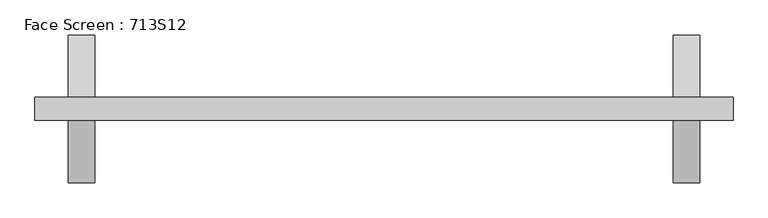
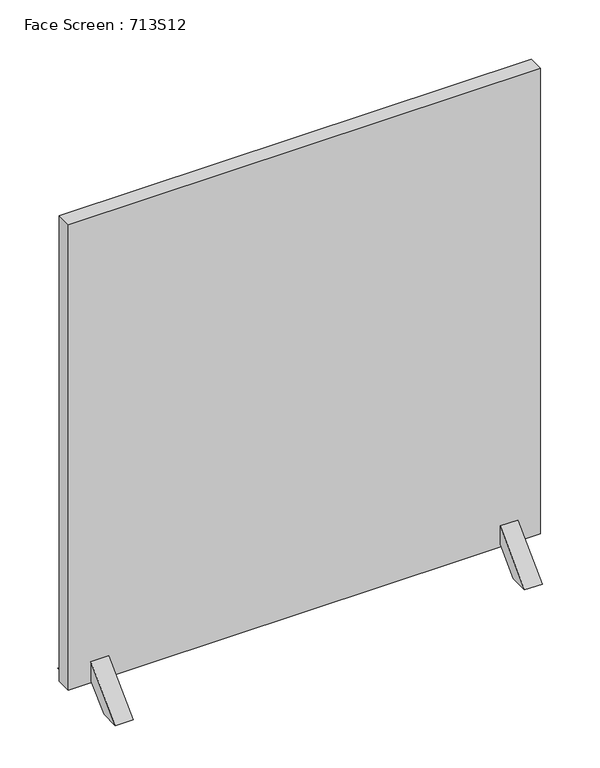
"""IFC4 building model written with IfcOpenShell, lengths in millimetres: furniture geometry, Face Screen : 713S12."""

from ifc_helpers import new_model, si_unit, frame, origin, place, context, project, spatial, polyline, outline, extrude, faceted_brep, source, transform, mapped, element, save


def face_screen_713s12_c93f8a8a(model_context):
    return source(origin(), model_context, "Body", "SolidModel", [
        faceted_brep([(509.0, 20.0, 50.0955899), (509.0, 20.0, 57.4960966), (509.0, 37.6776695, 39.8184271), (509.0, -37.6776695, 39.8184271), (509.0, -20.0, 57.4960966), (509.0, -20.0, 50.0955899), (497.5, -126.9935713, 0.0), (542.5, -126.9935713, 0.0), (542.5, -20.0, 106.9935713), (497.5, -20.0, 106.9935713), (497.5, -77.4960966, 0.0), (542.5, -77.4960966, 0.0), (497.5, -20.0, 57.4960966), (531.0, -37.6776695, 39.8184271), (531.0, -20.0, 57.4960966), (542.5, -20.0, 57.4960966), (531.0, 20.0, 50.0955899), (531.0, -20.0, 50.0955899), (531.0, 37.6776695, 39.8184271), (531.0, 20.0, 57.4960966), (542.5, 20.0, 57.4960966), (542.5, 20.0, 106.9935713), (497.5, 20.0, 106.9935713), (497.5, 20.0, 57.4960966), (497.5, 126.9935713, 0.0), (497.5, 77.4960966, 0.0), (542.5, 77.4960966, 0.0), (542.5, 126.9935713, 0.0)], [[[0, 1, 2, 3, 4, 5]], [[6, 7, 8, 9]], [[10, 11, 7, 6]], [[12, 4, 3, 13, 14, 15, 11, 10]], [[16, 17, 14, 13, 18, 19]], [[5, 17, 16, 0]], [[4, 12, 9, 8, 15, 14, 17, 5]], [[2, 18, 13, 3]], [[0, 16, 19, 20, 21, 22, 23, 1]], [[22, 24, 25, 23]], [[9, 12, 10, 6]], [[21, 20, 26, 27]], [[8, 7, 11, 15]], [[25, 26, 20, 19, 18, 2, 1, 23]], [[24, 27, 26, 25]], [[22, 21, 27, 24]]]),
        faceted_brep([(-509.0, -20.0, 50.0955899), (-509.0, -20.0, 57.4960966), (-509.0, -37.6776695, 39.8184271), (-509.0, 37.6776695, 39.8184271), (-509.0, 20.0, 57.4960966), (-509.0, 20.0, 50.0955899), (-497.5, 126.9935713, 0.0), (-542.5, 126.9935713, 0.0), (-542.5, 20.0, 106.9935713), (-497.5, 20.0, 106.9935713), (-497.5, 77.4960966, 0.0), (-542.5, 77.4960966, 0.0), (-497.5, 20.0, 57.4960966), (-531.0, 37.6776695, 39.8184271), (-531.0, 20.0, 57.4960966), (-542.5, 20.0, 57.4960966), (-531.0, -20.0, 50.0955899), (-531.0, 20.0, 50.0955899), (-531.0, -37.6776695, 39.8184271), (-531.0, -20.0, 57.4960966), (-542.5, -20.0, 57.4960966), (-542.5, -20.0, 106.9935713), (-497.5, -20.0, 106.9935713), (-497.5, -20.0, 57.4960966), (-497.5, -126.9935713, 0.0), (-497.5, -77.4960966, 0.0), (-542.5, -77.4960966, 0.0), (-542.5, -126.9935713, 0.0)], [[[0, 1, 2, 3, 4, 5]], [[6, 7, 8, 9]], [[10, 11, 7, 6]], [[12, 4, 3, 13, 14, 15, 11, 10]], [[16, 17, 14, 13, 18, 19]], [[5, 17, 16, 0]], [[4, 12, 9, 8, 15, 14, 17, 5]], [[2, 18, 13, 3]], [[0, 16, 19, 20, 21, 22, 23, 1]], [[22, 24, 25, 23]], [[9, 12, 10, 6]], [[21, 20, 26, 27]], [[8, 7, 11, 15]], [[25, 26, 20, 19, 18, 2, 1, 23]], [[24, 27, 26, 25]], [[22, 21, 27, 24]]]),
        extrude(outline(polyline([(600.0, 20.0), (600.0, -20.0), (-600.0, -20.0), (-600.0, 20.0), (600.0, 20.0)])), frame((0.0, 0.0, 50.0), z_axis=(0.0, 0.0, 1.0), x_axis=(1.0, 0.0, 0.0)), (0.0, 0.0, 1.0), 1250.0),
    ])


if __name__ == "__main__":
    model = new_model("IFC4")
    model_context = context("Model", 3, world=origin())
    ifc_project = project(units=[si_unit("LENGTHUNIT", "METRE", prefix="MILLI")], contexts=[model_context])
    site = spatial("IfcSite", under=ifc_project)
    building = spatial("IfcBuilding", under=site)
    placement = place(None, origin())
    face_screen_713s12_shape = face_screen_713s12_c93f8a8a(model_context)
    element("IfcFurniture", 1, ObjectType="Face Screen : 713S12", at=placement, inside=building, context=model_context, shape_type="MappedRepresentation", body=[
        mapped(face_screen_713s12_shape, transform((0.0, 0.0, 0.0), x_axis=(1.0, 0.0, 0.0), y_axis=(0.0, 1.0, 0.0), z_axis=(0.0, 0.0, 1.0))),
    ])
    save(model, "model.ifc")
